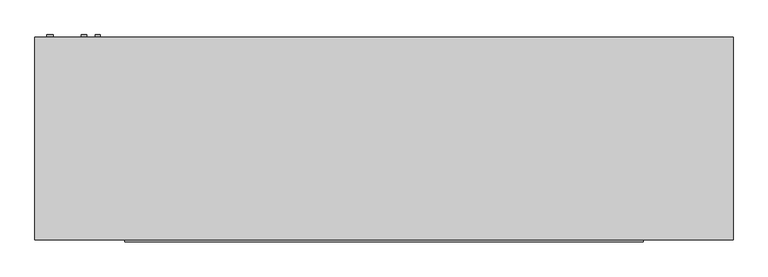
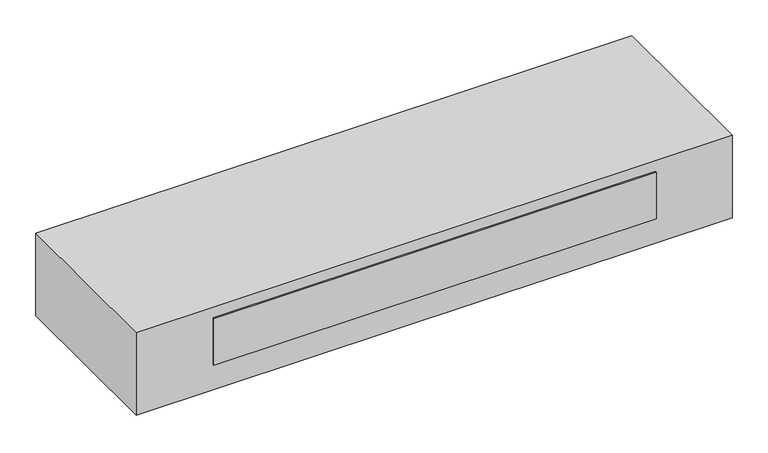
"""IFC4 building model written with IfcOpenShell, lengths in millimetres: proxy geometry, Exposed_Horizontal_Fan_Coil_Unit_-_42CGB_-_CARRIER_-_2-Pipe_Cool-EHeat_FS-BR_LH_2022 : Size 12 - 277v/60Hz/1Ph - 4 Row 10.0kW."""

from ifc_helpers import new_model, si_unit, point, frame, frame_2d, origin, place, context, project, spatial, polyline, circle_curve, trimmed, segment, composite_curve, outline, extrude, source, transform, mapped, element, save


def mechanical_equipment_0c63f588(model_context):
    return source(origin(), model_context, "Body", "SweptSolid", [
        extrude(outline(composite_curve([segment(trimmed(circle_curve(frame_2d((-60.325, -701.675)), 7.9375), [point((-60.325, -693.7375))], [point((-60.325, -709.6125))], False, "CARTESIAN"), True, "CONTINUOUS"), segment(trimmed(circle_curve(frame_2d((-60.325, -701.675)), 7.9375), [point((-60.325, -709.6125))], [point((-60.325, -693.7375))], False, "CARTESIAN"), True, "CONTINUOUS")], self_intersect=False)), frame((0.0, 65.0875, 0.0), z_axis=(0.0, 1.0, 0.0), x_axis=(0.0, 0.0, 1.0)), (0.0, 0.0, 1.0), 6.35),
        extrude(outline(composite_curve([segment(trimmed(circle_curve(frame_2d((-95.25, -742.95)), 7.9375), [point((-95.25, -735.0125))], [point((-95.25, -750.8875))], False, "CARTESIAN"), True, "CONTINUOUS"), segment(trimmed(circle_curve(frame_2d((-95.25, -742.95)), 7.9375), [point((-95.25, -750.8875))], [point((-95.25, -735.0125))], False, "CARTESIAN"), True, "CONTINUOUS")], self_intersect=False)), frame((0.0, 65.0875, 0.0), z_axis=(0.0, 1.0, 0.0), x_axis=(0.0, 0.0, 1.0)), (0.0, 0.0, 1.0), 6.35),
        extrude(outline(composite_curve([segment(trimmed(circle_curve(frame_2d((-260.35, -844.55)), 9.525), [point((-260.35, -835.025))], [point((-260.35, -854.075))], False, "CARTESIAN"), True, "CONTINUOUS"), segment(trimmed(circle_curve(frame_2d((-260.35, -844.55)), 9.525), [point((-260.35, -854.075))], [point((-260.35, -835.025))], False, "CARTESIAN"), True, "CONTINUOUS")], self_intersect=False)), frame((0.0, 65.0875, 0.0), z_axis=(0.0, 1.0, 0.0), x_axis=(0.0, 0.0, 1.0)), (0.0, 0.0, 1.0), 6.35),
        extrude(outline(polyline([(-889.0, 65.0875), (1193.8, 65.0875), (1193.8, -541.3375), (-889.0, -541.3375), (-889.0, 65.0875)])), frame((0.0, 0.0, -304.8), z_axis=(0.0, 0.0, 1.0), x_axis=(1.0, 0.0, 0.0)), (0.0, 0.0, 1.0), 304.8),
        extrude(outline(polyline([(925.5125, -547.6875), (-620.7125, -547.6875), (-620.7125, -541.3375), (925.5125, -541.3375), (925.5125, -547.6875)])), frame((0.0, 0.0, -209.55), z_axis=(0.0, 0.0, 1.0), x_axis=(1.0, 0.0, 0.0)), (0.0, 0.0, 1.0), 171.45),
        extrude(outline(polyline([(952.5, -11.1125), (952.5, -265.1125), (-647.7, -265.1125), (-647.7, -11.1125), (952.5, -11.1125)])), frame((0.0, 0.0, -311.15), z_axis=(0.0, 0.0, 1.0), x_axis=(1.0, 0.0, 0.0)), (0.0, 0.0, 1.0), 6.35),
    ])


if __name__ == "__main__":
    model = new_model("IFC4")
    model_context = context("Model", 3, world=origin())
    ifc_project = project(units=[si_unit("LENGTHUNIT", "METRE", prefix="MILLI")], contexts=[model_context])
    site = spatial("IfcSite", under=ifc_project)
    building = spatial("IfcBuilding", under=site)
    placement = place(None, origin())
    mechanical_equipment_shape = mechanical_equipment_0c63f588(model_context)
    element("IfcBuildingElementProxy", 1, Name="Exposed_Horizontal_Fan_Coil_Unit_-_42CGB_-_CARRIER_-_2-Pipe_Cool-EHeat_FS-BR_LH_2022 : Size 12 - 277v/60Hz/1Ph - 4 Row 10.0kW", ObjectType="Exposed_Horizontal_Fan_Coil_Unit_-_42CGB_-_CARRIER_-_2-Pipe_Cool-EHeat_FS-BR_LH_2022 : Size 12 - 277v/60Hz/1Ph - 4 Row 10.0kW", at=placement, inside=building, context=model_context, shape_type="MappedRepresentation", body=[
        mapped(mechanical_equipment_shape, transform((0.0, 0.0, 0.0), x_axis=(1.0, 0.0, 0.0), y_axis=(0.0, 1.0, 0.0), z_axis=(0.0, 0.0, 1.0))),
    ])
    save(model, "model.ifc")
